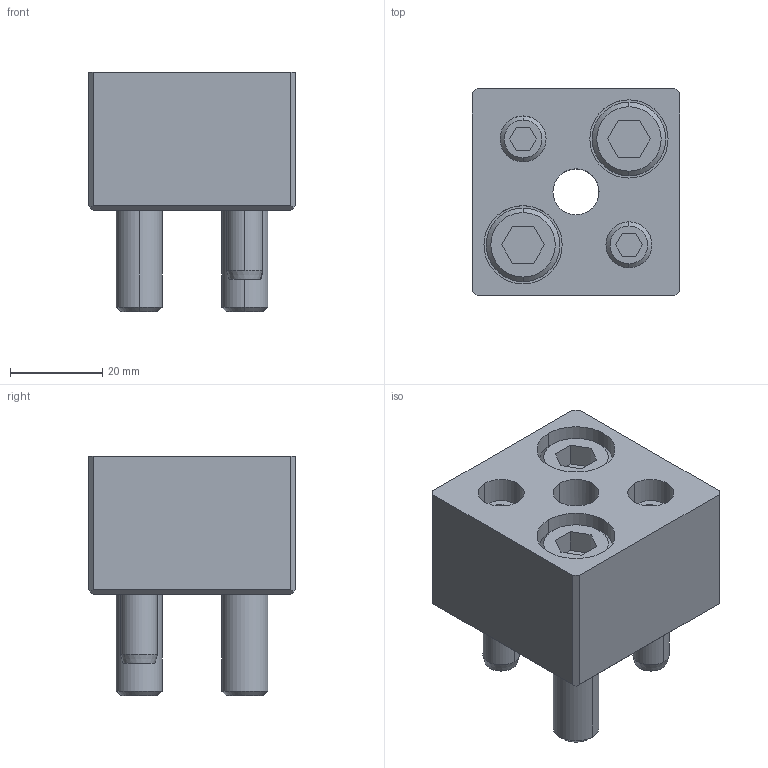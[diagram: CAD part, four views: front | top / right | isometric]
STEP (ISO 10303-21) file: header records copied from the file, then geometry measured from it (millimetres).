
FILE_DESCRIPTION(/* description */ (''),/* implementation_level */ '2;1');
FILE_NAME(/* name */ '3d_mpdr10_04597_r00.stp',/* time_stamp */ '2011-01-10T14:13:30+09:00',/* author */ ('MISUMI'),/* organization */ (''),/* preprocessor_version */ 'ST-DEVELOPER v11',/* originating_system */ 'UGS - NX 5.0',/* authorisation */ '');
FILE_SCHEMA (('CONFIG_CONTROL_DESIGN'));
Length unit declared in the file: millimetre
Products named in the file (1): 3d_mpdr10_04597_r00
Bounding box: 45 x 45 x 52 mm (x, y, z)
Volume: 58772.7 mm3; surface area: 21253.1 mm2
Topology: 7 solids, 7 shells, 139 faces, 310 edges, 199 vertices
Faces by surface type: plane 68, cylinder 45, cone 26
Entity records: 3984 total; most frequent: DIRECTION 700, CARTESIAN_POINT 696, ORIENTED_EDGE 620, EDGE_CURVE 310, AXIS2_PLACEMENT_3D 257, VERTEX_POINT 199, LINE 186, VECTOR 186
